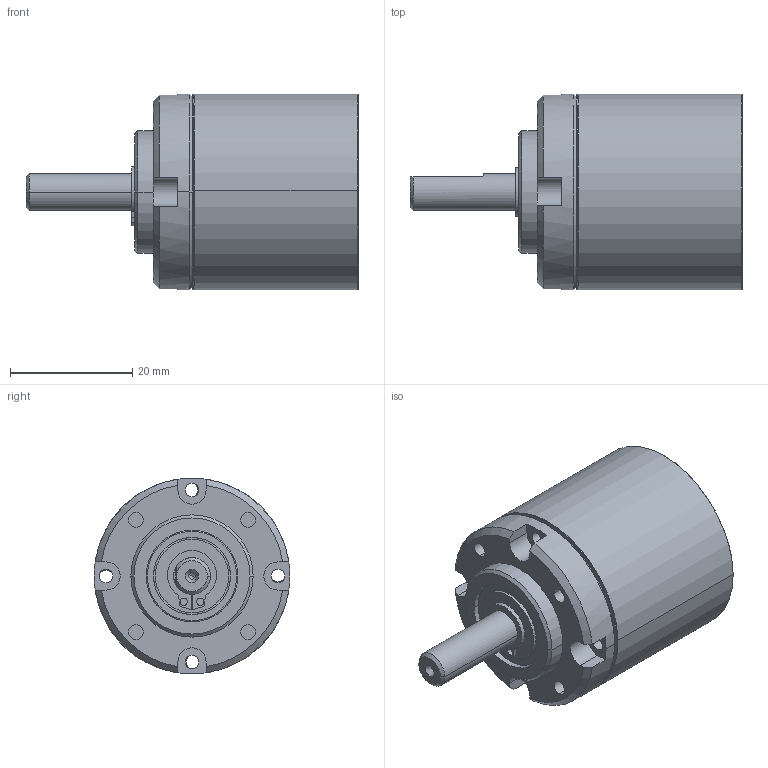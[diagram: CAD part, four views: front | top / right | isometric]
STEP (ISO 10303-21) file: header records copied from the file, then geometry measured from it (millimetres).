
FILE_DESCRIPTION((''),'2;1');
FILE_NAME('GP32BZ','2016-10-07T',('mmagpetk'),(''),'CREO PARAMETRIC BY PTC INC, 2016050','CREO PARAMETRIC BY PTC INC, 2016050','');
FILE_SCHEMA(('CONFIG_CONTROL_DESIGN'));
Length unit declared in the file: millimetre
Products named in the file (1): GP32BZ
Bounding box: 54.3 x 32 x 32 mm (x, y, z)
Volume: 27281.4 mm3; surface area: 7054.9 mm2
Topology: 1 solids, 1 shells, 158 faces, 363 edges, 229 vertices
Faces by surface type: cylinder 72, plane 48, cone 34, torus 4
Entity records: 6119 total; most frequent: DIRECTION 861, CARTESIAN_POINT 823, ORIENTED_EDGE 722, PRESENTATION_STYLE_ASSIGNMENT 408, STYLED_ITEM 362, CURVE_STYLE 361, EDGE_CURVE 361, AXIS2_PLACEMENT_3D 354
